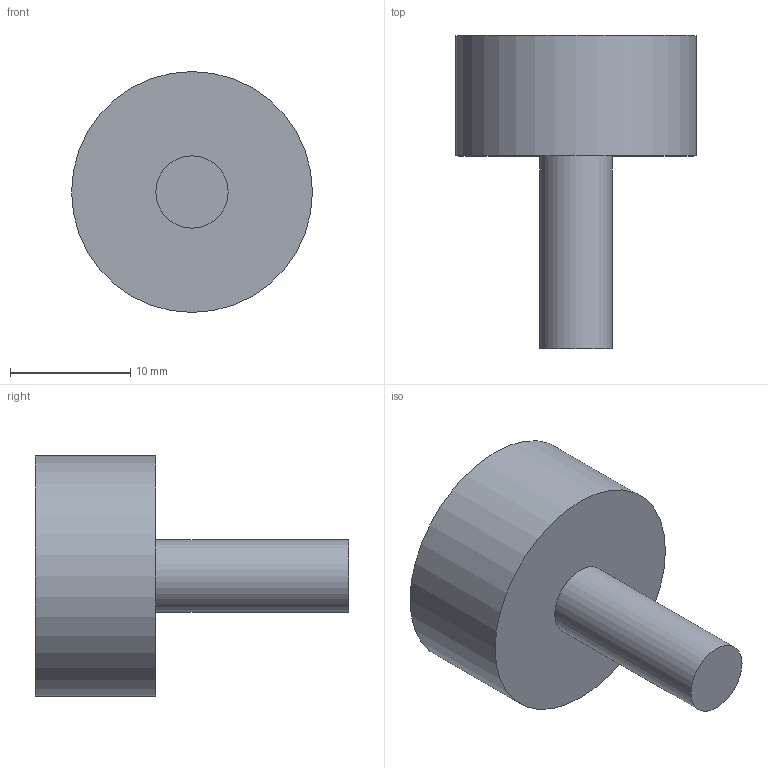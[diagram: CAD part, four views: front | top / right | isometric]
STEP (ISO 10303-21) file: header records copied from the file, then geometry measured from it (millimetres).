
FILE_DESCRIPTION(/* description */ ('Puffer cilindrico A1PM 20X10 M6X16 60 SH'),/* implementation_level */ '2;1');
FILE_NAME(/* name */ 'C:\Users\Stefan.Nesic\Desktop\01010 STEP da zippare\A1PM2010.stp',/* time_stamp */ '2022-06-17T12:05:19+02:00',/* author */ ('daniele.berto'),/* organization */ (''),/* preprocessor_version */ 'ST-DEVELOPER v18.1',/* originating_system */ 'Autodesk Inventor 2021',/* authorisation */ '');
FILE_SCHEMA (('AUTOMOTIVE_DESIGN { 1 0 10303 214 3 1 1 }'));
Length unit declared in the file: millimetre
Products named in the file (1): A1PM2010
Bounding box: 20 x 26 x 20 mm (x, y, z)
Volume: 3594 mm3; surface area: 1558.2 mm2
Topology: 1 solids, 1 shells, 5 faces, 6 edges, 4 vertices
Faces by surface type: plane 3, cylinder 2
Full cylindrical faces by diameter (mm): 6 x1, 20 x1
Entity records: 157 total; most frequent: DIRECTION 22, CARTESIAN_POINT 16, ORIENTED_EDGE 12, AXIS2_PLACEMENT_3D 10, EDGE_LOOP 6, EDGE_CURVE 6, FACE_OUTER_BOUND 5, ADVANCED_FACE 5
